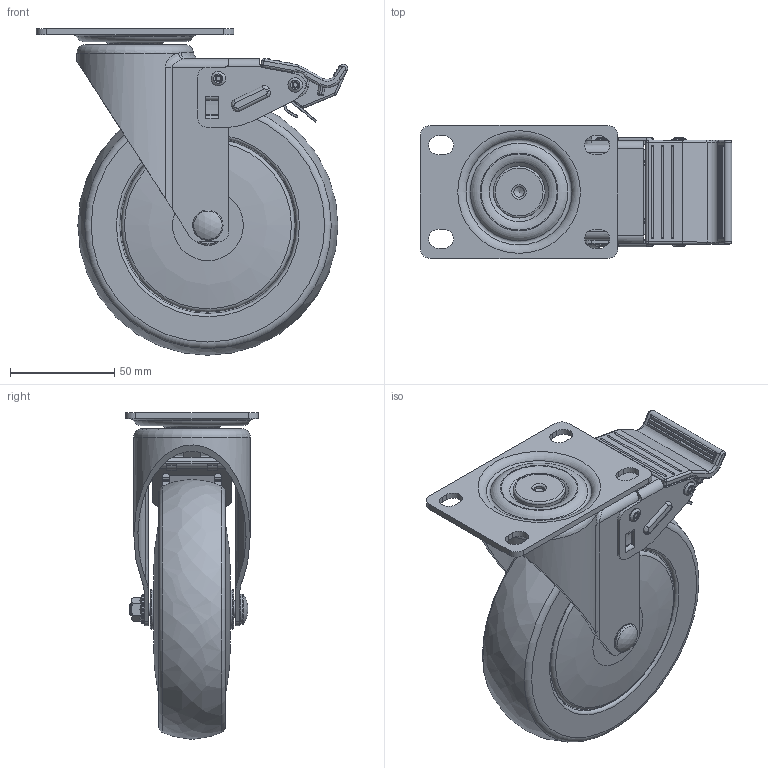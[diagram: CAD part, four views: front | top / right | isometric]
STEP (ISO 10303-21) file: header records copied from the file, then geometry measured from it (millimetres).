
FILE_DESCRIPTION((''),'2;1');
FILE_NAME('E:\GL-홈피용3D\3d step\가져온 구성요소\GL-125-BSF\GL-125-BSF.stp','2011-11-21T09:29:57',('Administrator'),(''),'Autodesk Inventor 2011','Autodesk Inventor 2011','');
FILE_SCHEMA(('AUTOMOTIVE_DESIGN { 1 0 10303 214 1 1 1 1 }'));
Length unit declared in the file: millimetre
Products named in the file (1): GL-125-BSF
Bounding box: 149.71 x 64 x 157 mm (x, y, z)
Volume: 351551.8 mm3; surface area: 143866 mm2
Topology: 8 solids, 11 shells, 804 faces, 2091 edges, 1337 vertices
Faces by surface type: cylinder 307, plane 274, torus 125, bspline 49, sphere 28, cone 21
Full cylindrical faces by diameter (mm): 5 x3, 5.2 x5, 6 x2, 6.2 x1, 7 x5, 8 x1, 8.2 x2, 11 x1, 11.1 x1, 11.2 x1, 14 x1, 14.6 x1, 15 x3, 16 x1, 19 x2, 21.667 x2, 21.867 x2, 24.645 x1, 25 x1, 28.133 x2, 28.333 x2, 32.4 x2, 41 x1, 43 x2, 47 x2, 80.5 x2, 83.5 x2, 85 x2
Entity records: 26007 total; most frequent: CARTESIAN_POINT 7036, DIRECTION 4126, ORIENTED_EDGE 3668, EDGE_CURVE 1834, AXIS2_PLACEMENT_3D 1654, VERTEX_POINT 1256, EDGE_LOOP 1082, CIRCLE 832
